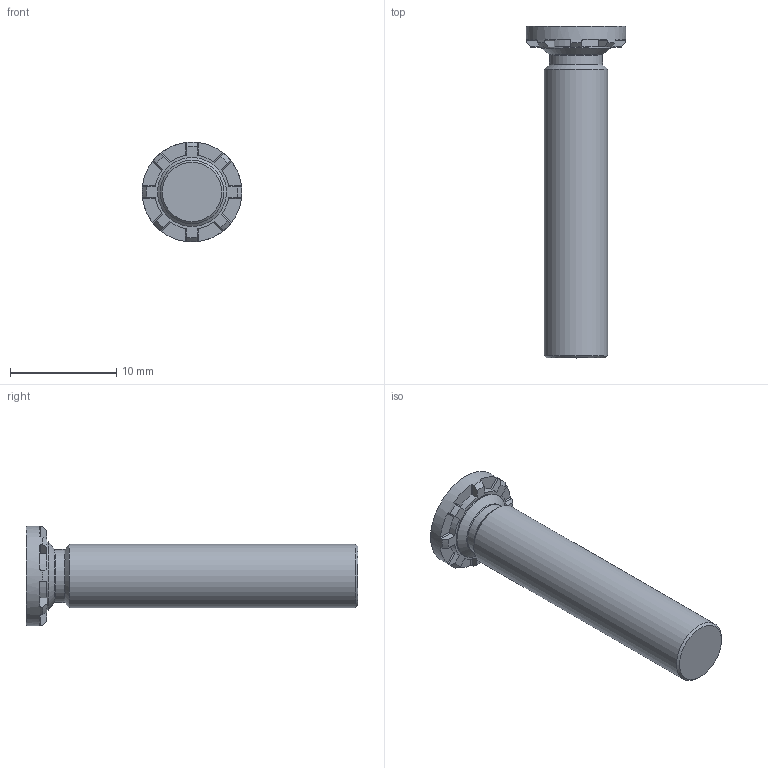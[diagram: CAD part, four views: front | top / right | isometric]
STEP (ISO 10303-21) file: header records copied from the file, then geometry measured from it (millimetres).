
FILE_DESCRIPTION(/* description */ (''),/* implementation_level */ '2;1');
FILE_NAME(/* name */ 'C:\Users\keval.kumar\Desktop\Fastit\Clinch Screw- HFH Range\M6\Clinch Screw-HFH Range_M6x30.stp',/* time_stamp */ '2024-03-12T15:31:01+05:00',/* author */ ('keval.kumar'),/* organization */ (''),/* preprocessor_version */ 'ST-DEVELOPER v18.1',/* originating_system */ 'Autodesk Inventor 2022',/* authorisation */ '');
FILE_SCHEMA (('AUTOMOTIVE_DESIGN { 1 0 10303 214 3 1 1 }'));
Length unit declared in the file: millimetre
Products named in the file (1): Clinch Screw-HFH Range_M6x30
Bounding box: 9.4 x 31.27 x 9.4 mm (x, y, z)
Volume: 938.4 mm3; surface area: 752.2 mm2
Topology: 1 solids, 1 shells, 68 faces, 193 edges, 128 vertices
Faces by surface type: plane 43, cylinder 12, cone 11, torus 2
Full cylindrical faces by diameter (mm): 5 x1, 6 x1, 6.5 x1, 9.4 x1
Entity records: 2278 total; most frequent: CARTESIAN_POINT 422, DIRECTION 405, ORIENTED_EDGE 386, EDGE_CURVE 193, AXIS2_PLACEMENT_3D 159, VERTEX_POINT 128, LINE 87, VECTOR 87
